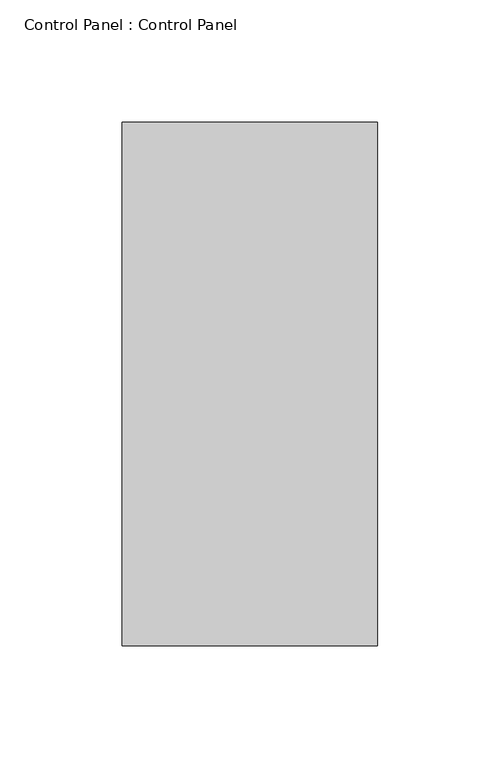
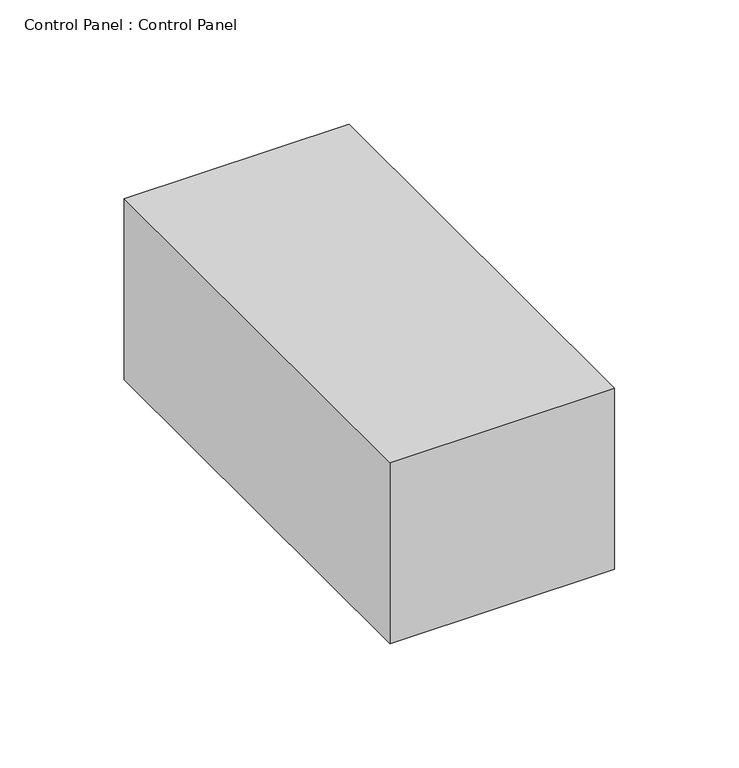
"""IFC4 building model written with IfcOpenShell, lengths in millimetres: proxy geometry, Control Panel : Control Panel."""

from ifc_helpers import new_model, si_unit, origin, origin_with_axes, place, context, project, spatial, polyline, outline, extrude, source, transform, mapped, element, save


def control_panel_control_panel_2601ea38(model_context):
    return source(origin(), model_context, "Body", "SweptSolid", [
        extrude(outline(polyline([(52.1917303, 106.8960095), (52.1917303, -106.8960095), (-52.1917303, -106.8960095), (-52.1917303, 106.8960095), (52.1917303, 106.8960095)])), origin_with_axes(), (0.0, 0.0, 1.0), 88.9),
    ])


if __name__ == "__main__":
    model = new_model("IFC4")
    model_context = context("Model", 3, world=origin())
    ifc_project = project(units=[si_unit("LENGTHUNIT", "METRE", prefix="MILLI")], contexts=[model_context])
    site = spatial("IfcSite", under=ifc_project)
    building = spatial("IfcBuilding", under=site)
    placement = place(None, origin())
    control_panel_control_panel_shape = control_panel_control_panel_2601ea38(model_context)
    element("IfcBuildingElementProxy", 1, Name="Control Panel : Control Panel", ObjectType="Control Panel : Control Panel", at=placement, inside=building, context=model_context, shape_type="MappedRepresentation", body=[
        mapped(control_panel_control_panel_shape, transform((0.0, 0.0, 0.0), x_axis=(1.0, 0.0, 0.0), y_axis=(0.0, 1.0, 0.0), z_axis=(0.0, 0.0, 1.0))),
    ])
    save(model, "model.ifc")
